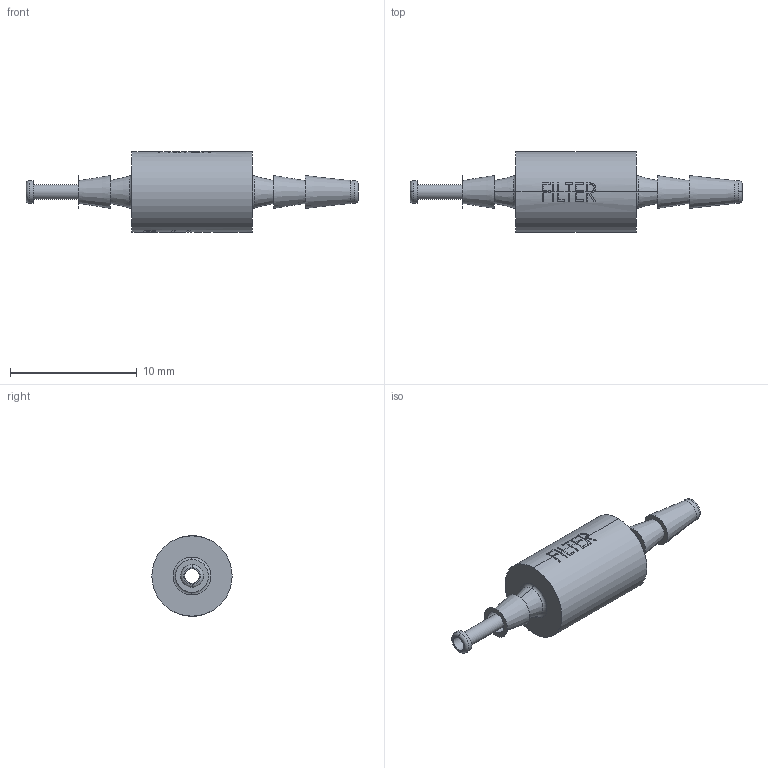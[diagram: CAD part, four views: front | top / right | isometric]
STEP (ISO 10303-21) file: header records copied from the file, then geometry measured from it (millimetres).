
FILE_DESCRIPTION(/* description */ ('SolidWorks IGES file using NURBS representation for surfaces '),/* implementation_level */ '2;1');
FILE_NAME(/* name */ 'K:\Normteile INVENTOR\Air-Logic\Filters\F-950-5-B80.IGS.ipt.stp',/* time_stamp */ '2020-05-27T10:39:46+02:00',/* author */ ('amarsh'),/* organization */ (''),/* preprocessor_version */ 'ST-DEVELOPER v18',/* originating_system */ 'Autodesk Inventor 2020',/* authorisation */ '');
FILE_SCHEMA (('AUTOMOTIVE_DESIGN { 1 0 10303 214 3 1 1 }'));
Length unit declared in the file: millimetre
Products named in the file (1): F-950-5-B80.IGS
Bounding box: 26.22 x 6.35 x 6.35 mm (x, y, z)
Volume: 335.3 mm3; surface area: 467.6 mm2
Topology: 1 solids, 1 shells, 152 faces, 435 edges, 292 vertices
Faces by surface type: plane 72, bspline 39, cylinder 25, torus 8, cone 8
Full cylindrical faces by diameter (mm): 1.17 x1, 1.8 x2
Entity records: 7854 total; most frequent: CARTESIAN_POINT 3942, ORIENTED_EDGE 870, DIRECTION 738, EDGE_CURVE 435, VERTEX_POINT 292, AXIS2_PLACEMENT_3D 267, LINE 204, VECTOR 204
